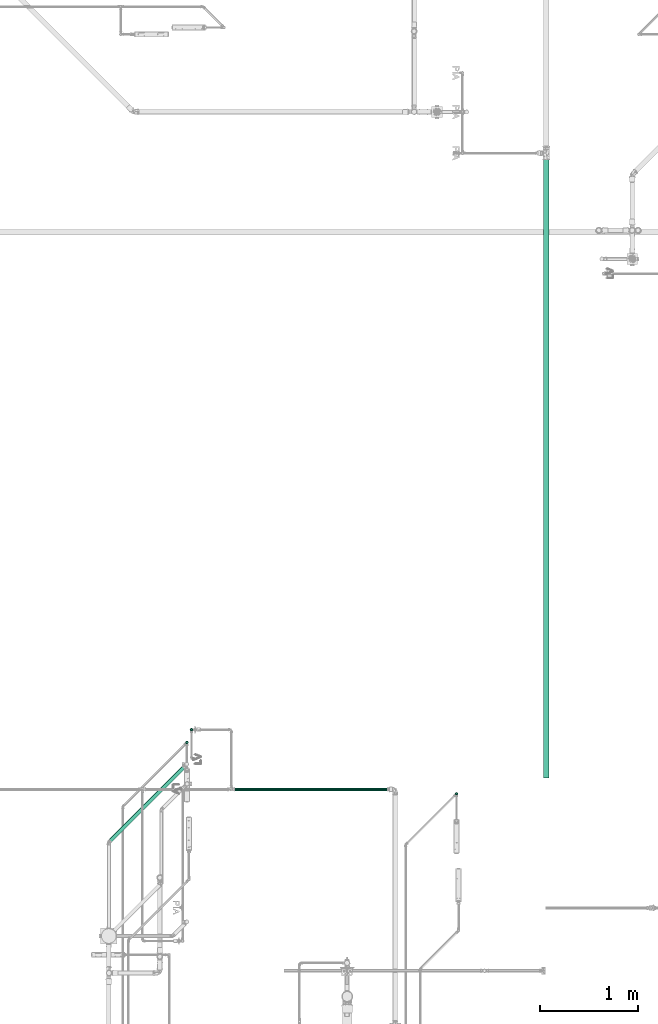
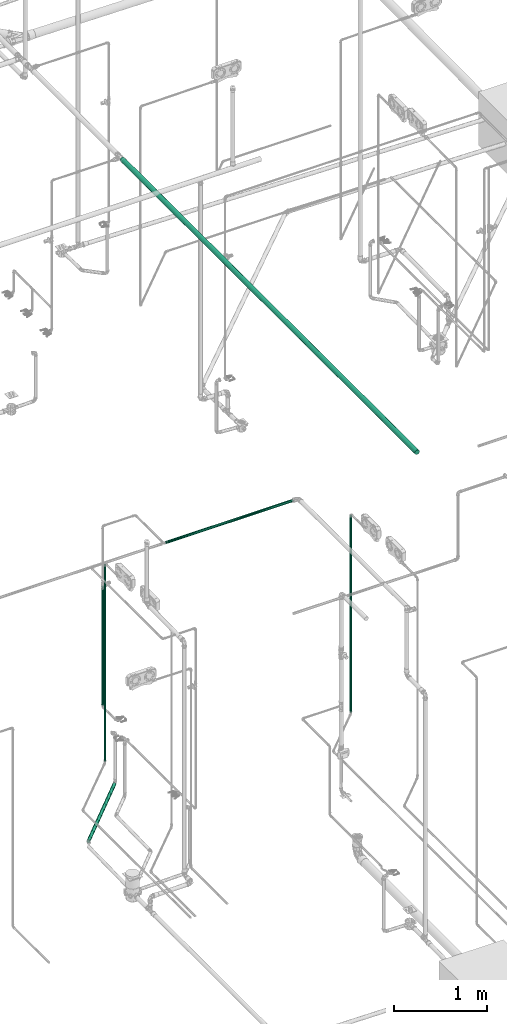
# One storey, part 9 of 589: 6 flow segments.
"""IFC2X3 building model written with IfcOpenShell, lengths in millimetres."""

from ifc_helpers import new_model, entity, si_unit, converted_unit, derived_unit, direction, frame, frame_2d, origin, origin_2d_with_axis, place, context, subcontext, project, spatial, circle, extrude, type_object, element, save


model = new_model("IFC2X3")

# Units and contexts
model_context = context("Model", 3, precision=0.01, world=origin(), true_north=direction((6.123031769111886e-17, 1.0)))
body_context = subcontext(model_context, "Body", "Model", "MODEL_VIEW")
ifc_project = project(units=[si_unit("LENGTHUNIT", "METRE", prefix="MILLI"), si_unit("AREAUNIT", "SQUARE_METRE"), si_unit("VOLUMEUNIT", "CUBIC_METRE"), converted_unit("PLANEANGLEUNIT", "DEGREE", entity("IfcRatioMeasure", 0.017453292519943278), si_unit("PLANEANGLEUNIT", "RADIAN"), dimensions=[0, 0, 0, 0, 0, 0, 0]), si_unit("MASSUNIT", "GRAM", prefix="KILO"), derived_unit("MASSDENSITYUNIT", [(si_unit("MASSUNIT", "GRAM", prefix="KILO"), 1), (si_unit("LENGTHUNIT", "METRE"), -3)]), derived_unit("IONCONCENTRATIONUNIT", [(si_unit("MASSUNIT", "GRAM", prefix="KILO"), 1), (si_unit("LENGTHUNIT", "METRE"), -3)]), derived_unit("MOMENTOFINERTIAUNIT", [(si_unit("LENGTHUNIT", "METRE"), 4)]), si_unit("TIMEUNIT", "SECOND"), si_unit("FREQUENCYUNIT", "HERTZ"), si_unit("THERMODYNAMICTEMPERATUREUNIT", "DEGREE_CELSIUS"), derived_unit("THERMALTRANSMITTANCEUNIT", [(si_unit("MASSUNIT", "GRAM", prefix="KILO"), 1), (si_unit("THERMODYNAMICTEMPERATUREUNIT", "KELVIN"), -1), (si_unit("TIMEUNIT", "SECOND"), -3)]), derived_unit("THERMALCONDUCTANCEUNIT", [(si_unit("MASSUNIT", "GRAM", prefix="KILO"), 1), (si_unit("THERMODYNAMICTEMPERATUREUNIT", "KELVIN"), -1), (si_unit("TIMEUNIT", "SECOND"), -3), (si_unit("LENGTHUNIT", "METRE"), 1)]), derived_unit("VOLUMETRICFLOWRATEUNIT", [(si_unit("LENGTHUNIT", "METRE"), 3), (si_unit("TIMEUNIT", "SECOND"), -1)]), derived_unit("MASSFLOWRATEUNIT", [(si_unit("MASSUNIT", "GRAM", prefix="KILO"), 1), (si_unit("TIMEUNIT", "SECOND"), -1)]), derived_unit("ROTATIONALFREQUENCYUNIT", [(si_unit("TIMEUNIT", "SECOND"), -1)]), si_unit("ELECTRICCURRENTUNIT", "AMPERE"), si_unit("ELECTRICVOLTAGEUNIT", "VOLT"), si_unit("POWERUNIT", "WATT"), si_unit("FORCEUNIT", "NEWTON", prefix="KILO"), si_unit("ILLUMINANCEUNIT", "LUX"), si_unit("LUMINOUSFLUXUNIT", "LUMEN"), si_unit("LUMINOUSINTENSITYUNIT", "CANDELA"), derived_unit("USERDEFINED", [(si_unit("MASSUNIT", "GRAM", prefix="KILO"), -1), (si_unit("LENGTHUNIT", "METRE"), -2), (si_unit("TIMEUNIT", "SECOND"), 3), (si_unit("LUMINOUSFLUXUNIT", "LUMEN"), 1)]), derived_unit("USERDEFINED", [(si_unit("MASSUNIT", "GRAM", prefix="KILO"), 1), (si_unit("TIMEUNIT", "SECOND"), -3), (si_unit("LENGTHUNIT", "METRE"), 3), (si_unit("ELECTRICCURRENTUNIT", "AMPERE"), -2)]), derived_unit("SOUNDPOWERUNIT", [(si_unit("MASSUNIT", "GRAM", prefix="KILO"), 1), (si_unit("TIMEUNIT", "SECOND"), -3), (si_unit("LENGTHUNIT", "METRE"), 2)]), derived_unit("SOUNDPRESSUREUNIT", [(si_unit("MASSUNIT", "GRAM", prefix="KILO"), 1), (si_unit("LENGTHUNIT", "METRE"), -1), (si_unit("TIMEUNIT", "SECOND"), -2)]), derived_unit("LINEARVELOCITYUNIT", [(si_unit("LENGTHUNIT", "METRE"), 1), (si_unit("TIMEUNIT", "SECOND"), -1)]), si_unit("PRESSUREUNIT", "PASCAL"), derived_unit("USERDEFINED", [(si_unit("MASSUNIT", "GRAM", prefix="KILO"), 1), (si_unit("LENGTHUNIT", "METRE"), -2), (si_unit("TIMEUNIT", "SECOND"), -2)]), derived_unit("LINEARFORCEUNIT", [(si_unit("MASSUNIT", "GRAM", prefix="KILO"), 1), (si_unit("TIMEUNIT", "SECOND"), -2)]), derived_unit("PLANARFORCEUNIT", [(si_unit("MASSUNIT", "GRAM", prefix="KILO"), 1), (si_unit("LENGTHUNIT", "METRE"), -1), (si_unit("TIMEUNIT", "SECOND"), -2)]), derived_unit("SPECIFICHEATCAPACITYUNIT", [(si_unit("THERMODYNAMICTEMPERATUREUNIT", "KELVIN"), -1), (si_unit("LENGTHUNIT", "METRE"), 2), (si_unit("TIMEUNIT", "SECOND"), -2)]), derived_unit("HEATINGVALUEUNIT", [(si_unit("LENGTHUNIT", "METRE"), 2), (si_unit("TIMEUNIT", "SECOND"), -2)]), derived_unit("VAPORPERMEABILITYUNIT", [(si_unit("LENGTHUNIT", "METRE"), -1), (si_unit("TIMEUNIT", "SECOND"), 1)]), derived_unit("DYNAMICVISCOSITYUNIT", [(si_unit("MASSUNIT", "GRAM", prefix="KILO"), 1), (si_unit("TIMEUNIT", "SECOND"), -1), (si_unit("LENGTHUNIT", "METRE"), -1)]), derived_unit("THERMALEXPANSIONCOEFFICIENTUNIT", [(si_unit("THERMODYNAMICTEMPERATUREUNIT", "KELVIN"), -1)]), derived_unit("MODULUSOFELASTICITYUNIT", [(si_unit("MASSUNIT", "GRAM", prefix="KILO"), 1), (si_unit("LENGTHUNIT", "METRE"), -1), (si_unit("TIMEUNIT", "SECOND"), -2)]), derived_unit("ISOTHERMALMOISTURECAPACITYUNIT", [(si_unit("LENGTHUNIT", "METRE"), 3), (si_unit("MASSUNIT", "GRAM", prefix="KILO"), -1)]), derived_unit("MOISTUREDIFFUSIVITYUNIT", [(si_unit("TIMEUNIT", "SECOND"), -1), (si_unit("LENGTHUNIT", "METRE"), 2)])], contexts=[model_context])

# Site, building, storey
site_placement = place(None, origin())
site = spatial("IfcSite", under=ifc_project, at=site_placement, Name="Default", CompositionType="ELEMENT")
building_placement = place(site_placement, origin())
building = spatial("IfcBuilding", under=site, at=building_placement, CompositionType="ELEMENT")
storey_placement = place(building_placement, frame((0.0, 0.0, 100.0)))
storey = spatial("IfcBuildingStorey", under=building, at=storey_placement, Name="TÉRREO", CompositionType="ELEMENT", Elevation=100.0)

# Flow segments
pipe_segment_type_1 = type_object("IfcPipeSegmentType", Name="Tipos de tubos:PVC Esgoto Série Normal", PredefinedType="NOTDEFINED")
flow_segment_1_placement = place(storey_placement, origin())
element("IfcFlowSegment", 1, at=flow_segment_1_placement, inside=storey, type_object=pipe_segment_type_1, Name="Tipos de tubos:PVC Esgoto Série Normal", ObjectType="Tipos de tubos:PVC Esgoto Série Normal", context=body_context, shape_type="SweptSolid", body=[
    extrude(circle(Radius=20.0, at=frame_2d((4.785163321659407e-14, 1.7870511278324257e-14), x_axis=(1.0, 0.0))), frame((-402.19654881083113, -6733.696005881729, -180.35479081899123), z_axis=(0.7070369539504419, 0.7068955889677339, 0.01993419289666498), x_axis=(-0.7070360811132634, 0.7071774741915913, 0.0)), (0.0, 0.0, 1.0), 1079.7978878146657),
])
pipe_segment_type_2 = type_object("IfcPipeSegmentType", Name="Tipos de tubos:PVC Marrom Soldável", PredefinedType="NOTDEFINED")
flow_segment_2_placement = place(storey_placement, origin())
element("IfcFlowSegment", 2, at=flow_segment_2_placement, inside=storey, type_object=pipe_segment_type_2, Name="Tipos de tubos:PVC Marrom Soldável", ObjectType="Tipos de tubos:PVC Marrom Soldável", context=body_context, shape_type="SweptSolid", body=[
    extrude(circle(Radius=12.5, at=origin_2d_with_axis()), frame((431.84239219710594, -5595.395968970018, 615.4000000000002), z_axis=(0.0, 0.0, 1.0), x_axis=(-1.0, 0.0, 0.0)), (0.0, 0.0, 1.0), 1564.6000000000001),
])
flow_segment_3_placement = place(storey_placement, origin())
element("IfcFlowSegment", 3, at=flow_segment_3_placement, inside=storey, type_object=pipe_segment_type_2, Name="Tipos de tubos:PVC Marrom Soldável", ObjectType="Tipos de tubos:PVC Marrom Soldável", context=body_context, shape_type="SweptSolid", body=[
    extrude(circle(Radius=30.0, at=origin_2d_with_axis()), frame((4045.7158682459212, -6087.625782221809, 2970.0), z_axis=(0.0, 1.0, 0.0), x_axis=(-1.0, 0.0, 0.0)), (0.0, 0.0, 1.0), 6324.043911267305),
])
flow_segment_4_placement = place(storey_placement, origin())
element("IfcFlowSegment", 4, at=flow_segment_4_placement, inside=storey, type_object=pipe_segment_type_2, Name="Tipos de tubos:PVC Marrom Soldável", ObjectType="Tipos de tubos:PVC Marrom Soldável", context=body_context, shape_type="SweptSolid", body=[
    extrude(circle(Radius=12.5, at=frame_2d((0.0, -1.859011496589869e-19), x_axis=(1.0, 0.0))), frame((3131.1245078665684, -6247.840343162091, -20.75703900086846)), (0.0, 0.0, 1.0), 2580.6855571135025),
])
flow_segment_5_placement = place(storey_placement, origin())
element("IfcFlowSegment", 5, at=flow_segment_5_placement, inside=storey, type_object=pipe_segment_type_2, Name="Tipos de tubos:PVC Marrom Soldável", ObjectType="Tipos de tubos:PVC Marrom Soldável", context=body_context, shape_type="SweptSolid", body=[
    extrude(circle(Radius=12.5, at=frame_2d((0.0, -1.859011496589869e-19), x_axis=(1.0, 0.0))), frame((384.8399224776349, -5725.43921889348, -20.75703900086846)), (0.0, 0.0, 1.0), 2580.6855571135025),
])
flow_segment_6_placement = place(storey_placement, origin())
element("IfcFlowSegment", 6, at=flow_segment_6_placement, inside=storey, type_object=pipe_segment_type_2, Name="Tipos de tubos:PVC Marrom Soldável", ObjectType="Tipos de tubos:PVC Marrom Soldável", context=body_context, shape_type="SweptSolid", body=[
    extrude(circle(Radius=16.0, at=origin_2d_with_axis()), frame((860.7963413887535, -6202.625782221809, 2970.0), z_axis=(1.0, 0.0, 0.0), x_axis=(0.0, -1.0, 0.0)), (0.0, 0.0, 1.0), 1576.6397611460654),
])

save(model, "model.ifc")
